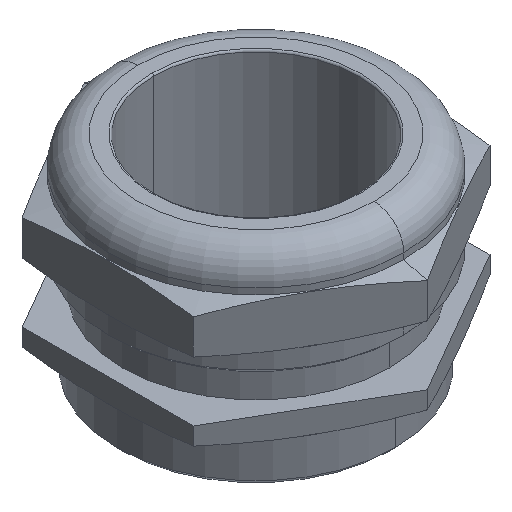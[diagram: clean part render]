
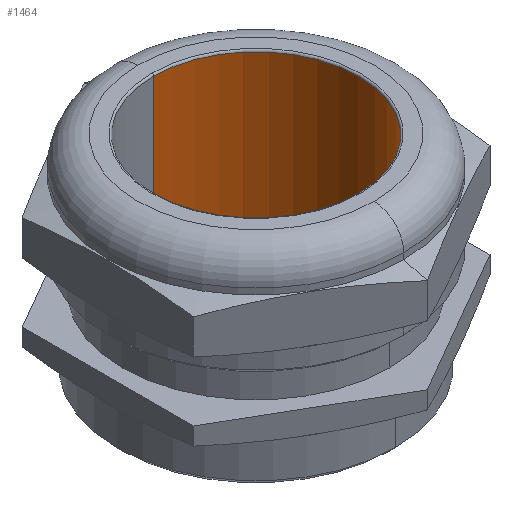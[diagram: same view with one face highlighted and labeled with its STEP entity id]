
A CAD part, isometric view. The second image highlights one B-rep face of the part: STEP entity #1464.
In plain terms, the highlighted cylindrical face has radius 17.25 mm (diameter 34.5 mm), a partial arc.
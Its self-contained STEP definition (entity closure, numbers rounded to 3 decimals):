
#7 = LINE ( 'NONE', #35, #27 ) ;
#23 = DIRECTION ( 'NONE',  ( 0., 0., -1. ) ) ;
#27 = VECTOR ( 'NONE', #23, 1000. ) ;
#35 = CARTESIAN_POINT ( 'NONE',  ( 0., -17.25, 0. ) ) ;
#103 = DIRECTION ( 'NONE',  ( 0., 1., 0. ) ) ;
#104 = DIRECTION ( 'NONE',  ( 0., 0., -1. ) ) ;
#105 = CARTESIAN_POINT ( 'NONE',  ( 0., 0., 0. ) ) ;
#106 = AXIS2_PLACEMENT_3D ( 'NONE', #105, #104, #103 ) ;
#132 = CIRCLE ( 'NONE', #106, 17.25 ) ;
#163 = CARTESIAN_POINT ( 'NONE',  ( 0., 17.25, 0. ) ) ;
#164 = CARTESIAN_POINT ( 'NONE',  ( 0., -17.25, 0. ) ) ;
#165 = DIRECTION ( 'NONE',  ( 0., 0., -1. ) ) ;
#166 = VECTOR ( 'NONE', #165, 1000. ) ;
#167 = CARTESIAN_POINT ( 'NONE',  ( 0., 17.25, 0. ) ) ;
#181 = LINE ( 'NONE', #167, #166 ) ;
#293 = DIRECTION ( 'NONE',  ( 0., -1., 0. ) ) ;
#294 = DIRECTION ( 'NONE',  ( 0., 0., 1. ) ) ;
#295 = CARTESIAN_POINT ( 'NONE',  ( 0., 0., 34.7 ) ) ;
#296 = AXIS2_PLACEMENT_3D ( 'NONE', #295, #294, #293 ) ;
#297 = CIRCLE ( 'NONE', #296, 17.25 ) ;
#311 = CARTESIAN_POINT ( 'NONE',  ( 0., -17.25, 34.7 ) ) ;
#324 = CARTESIAN_POINT ( 'NONE',  ( 0., 17.25, 34.7 ) ) ;
#346 = DIRECTION ( 'NONE',  ( 0., 1., 0. ) ) ;
#373 = DIRECTION ( 'NONE',  ( 0., 0., -1. ) ) ;
#374 = AXIS2_PLACEMENT_3D ( 'NONE', #398, #373, #346 ) ;
#385 = FACE_OUTER_BOUND ( 'NONE', #1465, .T. ) ;
#398 = CARTESIAN_POINT ( 'NONE',  ( 0., 0., 0. ) ) ;
#399 = CYLINDRICAL_SURFACE ( 'NONE', #374, 17.25 ) ;
#1153 = VERTEX_POINT ( 'NONE', #324 ) ;
#1167 = EDGE_CURVE ( 'NONE', #1168, #1153, #297, .T. ) ;
#1168 = VERTEX_POINT ( 'NONE', #311 ) ;
#1293 = EDGE_CURVE ( 'NONE', #1153, #1296, #181, .T. ) ;
#1295 = VERTEX_POINT ( 'NONE', #164 ) ;
#1296 = VERTEX_POINT ( 'NONE', #163 ) ;
#1306 = EDGE_CURVE ( 'NONE', #1168, #1295, #7, .T. ) ;
#1308 = ORIENTED_EDGE ( 'NONE', *, *, #1359, .T. ) ;
#1356 = ORIENTED_EDGE ( 'NONE', *, *, #1167, .T. ) ;
#1357 = ORIENTED_EDGE ( 'NONE', *, *, #1293, .T. ) ;
#1359 = EDGE_CURVE ( 'NONE', #1296, #1295, #132, .T. ) ;
#1464 = ADVANCED_FACE ( 'NONE', ( #385 ), #399, .F. ) ;
#1465 = EDGE_LOOP ( 'NONE', ( #1576, #1356, #1357, #1308 ) ) ;
#1576 = ORIENTED_EDGE ( 'NONE', *, *, #1306, .F. ) ;
